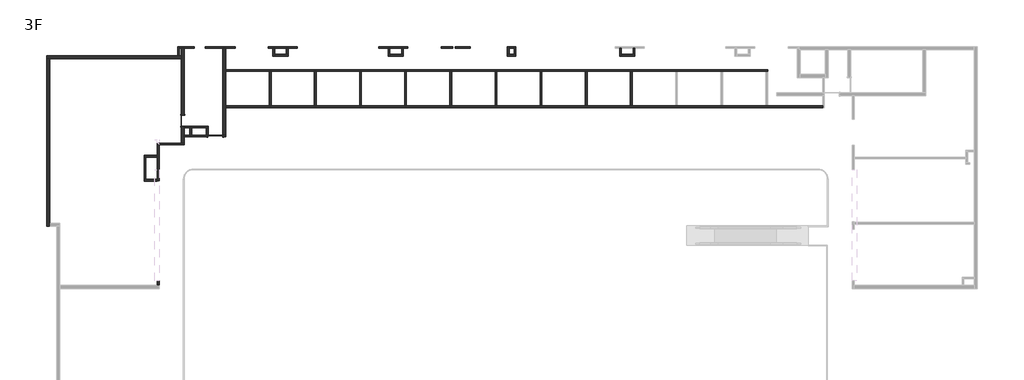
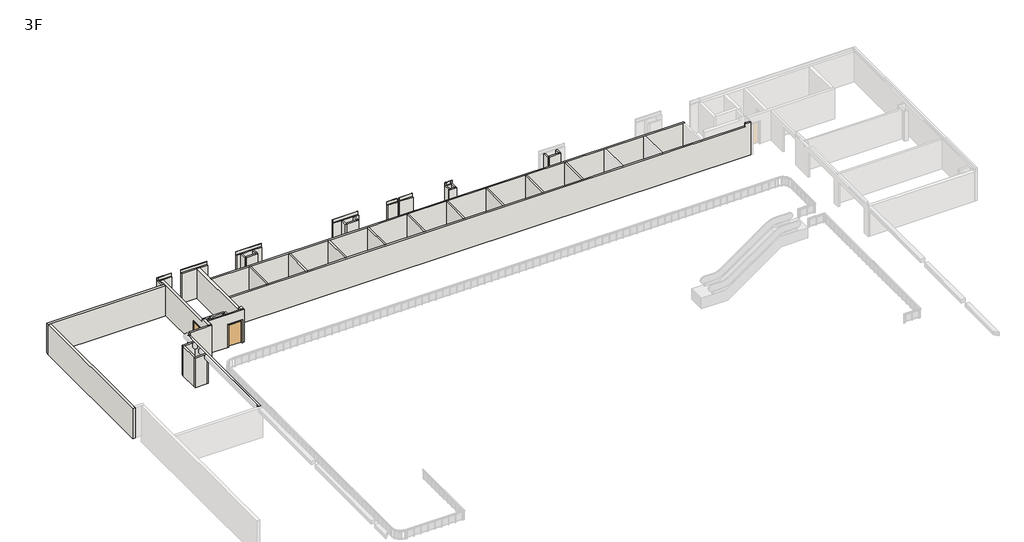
# One storey, part 3 of 4: 44 walls, 2 doors.
"""IFC4 building model written with IfcOpenShell, lengths in millimetres."""

from ifc_helpers import new_model, si_unit, frame, origin, place, context, project, spatial, polyline, outline, extrude, faceted_brep, transform, mapped, element, save
from components import m_single_flush_d_1200x2150_ee7a6381, m_single_flush_d_900x2150_afd04a23

model = new_model("IFC4")

# Units and contexts
model_context = context("Model", 3, world=origin())
ifc_project = project(units=[si_unit("LENGTHUNIT", "METRE", prefix="MILLI")], contexts=[model_context])

# Site, building, storey
site = spatial("IfcSite", under=ifc_project)
building = spatial("IfcBuilding", under=site)
storey = spatial("IfcBuildingStorey", under=building, Name="3F", Elevation=11850.0)

# Doors
placement = place(None, origin())
m_single_flush_d_1200x2150_shape = m_single_flush_d_1200x2150_ee7a6381(model_context)
element("IfcDoor", 1, ObjectType="M_Single-Flush : D-1200x2150", at=placement, inside=storey, context=model_context, shape_type="MappedRepresentation", body=[
    mapped(m_single_flush_d_1200x2150_shape, transform((-18037.5865899, 14093.3851347, 11850.0), x_axis=(1.0, 0.0, 0.0), y_axis=(0.0, 1.0, 0.0), z_axis=(0.0, 0.0, 1.0))),
])
m_single_flush_d_900x2150_shape = m_single_flush_d_900x2150_afd04a23(model_context)
element("IfcDoor", 2, ObjectType="M_Single-Flush : D-900x2150", at=placement, inside=storey, context=model_context, shape_type="MappedRepresentation", body=[
    mapped(m_single_flush_d_900x2150_shape, transform((-20654.0865899, 15317.3851347, 11850.0), x_axis=(0.0, -1.0, 0.0), y_axis=(1.0, 0.0, 0.0), z_axis=(0.0, 0.0, 1.0))),
])

# Walls
element("IfcWall", 3, ObjectType="wall-115", at=placement, inside=storey, context=model_context, shape_type="SweptSolid", body=[
    extrude(outline(polyline([(15197.4134101, 16502.3851347), (15197.4134101, 19272.3851347), (15339.4134101, 19272.3851347), (15339.4134101, 16502.3851347), (15197.4134101, 16502.3851347)])), frame((0.0, 0.0, 11850.0), z_axis=(0.0, 0.0, 1.0), x_axis=(1.0, 0.0, 0.0)), (0.0, 0.0, 1.0), 2875.0),
])
element("IfcWall", 4, ObjectType="wall-115", at=placement, inside=storey, context=model_context, shape_type="SweptSolid", body=[
    extrude(outline(polyline([(11582.4134101, 16502.3851347), (11582.4134101, 19272.3851347), (11724.4134101, 19272.3851347), (11724.4134101, 16502.3851347), (11582.4134101, 16502.3851347)])), frame((0.0, 0.0, 11850.0), z_axis=(0.0, 0.0, 1.0), x_axis=(1.0, 0.0, 0.0)), (0.0, 0.0, 1.0), 2875.0),
])
element("IfcWall", 5, ObjectType="wall-115", at=placement, inside=storey, context=model_context, shape_type="SweptSolid", body=[
    extrude(outline(polyline([(7967.4134101, 16502.3851347), (7967.4134101, 19272.3851347), (8109.4134101, 19272.3851347), (8109.4134101, 16502.3851347), (7967.4134101, 16502.3851347)])), frame((0.0, 0.0, 11850.0), z_axis=(0.0, 0.0, 1.0), x_axis=(1.0, 0.0, 0.0)), (0.0, 0.0, 1.0), 2875.0),
])
element("IfcWall", 6, ObjectType="wall-115", at=placement, inside=storey, context=model_context, shape_type="SweptSolid", body=[
    extrude(outline(polyline([(4352.4134101, 16502.3851347), (4352.4134101, 19272.3851347), (4494.4134101, 19272.3851347), (4494.4134101, 16502.3851347), (4352.4134101, 16502.3851347)])), frame((0.0, 0.0, 11850.0), z_axis=(0.0, 0.0, 1.0), x_axis=(1.0, 0.0, 0.0)), (0.0, 0.0, 1.0), 2875.0),
])
element("IfcWall", 7, ObjectType="wall-115", at=placement, inside=storey, context=model_context, shape_type="Brep", body=[
    faceted_brep([(5334.9134101, 20487.3851347, 11850.0), (6014.9134101, 20487.3851347, 11850.0), (6014.9134101, 20487.3851347, 14725.0), (5334.9134101, 20487.3851347, 14725.0), (6014.9134101, 20629.3851347, 11850.0), (5872.9134101, 20629.3851347, 11850.0), (5476.9134101, 20629.3851347, 11850.0), (5334.9134101, 20629.3851347, 11850.0), (5334.9134101, 20629.3851347, 14725.0), (5476.9134101, 20629.3851347, 14725.0), (5872.9134101, 20629.3851347, 14725.0), (6014.9134101, 20629.3851347, 14725.0)], [[[0, 1, 2, 3]], [[4, 5, 6, 7, 8, 9, 10, 11]], [[1, 0, 7, 6, 5, 4]], [[7, 0, 3, 8]], [[1, 4, 11, 2]], [[3, 2, 11, 10, 9, 8]]]),
])
element("IfcWall", 8, ObjectType="wall-115", at=placement, inside=storey, context=model_context, shape_type="SweptSolid", body=[
    extrude(outline(polyline([(737.4134101, 16502.3851347), (737.4134101, 19272.3851347), (879.4134101, 19272.3851347), (879.4134101, 16502.3851347), (737.4134101, 16502.3851347)])), frame((0.0, 0.0, 11850.0), z_axis=(0.0, 0.0, 1.0), x_axis=(1.0, 0.0, 0.0)), (0.0, 0.0, 1.0), 2875.0),
])
element("IfcWall", 9, ObjectType="wall-115", at=placement, inside=storey, context=model_context, shape_type="SweptSolid", body=[
    extrude(outline(polyline([(-2877.5865899, 16502.3851347), (-2877.5865899, 19272.3851347), (-2735.5865899, 19272.3851347), (-2735.5865899, 16502.3851347), (-2877.5865899, 16502.3851347)])), frame((0.0, 0.0, 11850.0), z_axis=(0.0, 0.0, 1.0), x_axis=(1.0, 0.0, 0.0)), (0.0, 0.0, 1.0), 2875.0),
])
element("IfcWall", 10, ObjectType="wall-115", at=placement, inside=storey, context=model_context, shape_type="SweptSolid", body=[
    extrude(outline(polyline([(-6492.5865899, 16502.3851347), (-6492.5865899, 19272.3851347), (-6350.5865899, 19272.3851347), (-6350.5865899, 16502.3851347), (-6492.5865899, 16502.3851347)])), frame((0.0, 0.0, 11850.0), z_axis=(0.0, 0.0, 1.0), x_axis=(1.0, 0.0, 0.0)), (0.0, 0.0, 1.0), 2875.0),
])
element("IfcWall", 11, ObjectType="wall-115", at=placement, inside=storey, context=model_context, shape_type="SweptSolid", body=[
    extrude(outline(polyline([(-10107.5865899, 16502.3851347), (-10107.5865899, 19272.3851347), (-9965.5865899, 19272.3851347), (-9965.5865899, 16502.3851347), (-10107.5865899, 16502.3851347)])), frame((0.0, 0.0, 11850.0), z_axis=(0.0, 0.0, 1.0), x_axis=(1.0, 0.0, 0.0)), (0.0, 0.0, 1.0), 2875.0),
])
element("IfcWall", 12, ObjectType="wall-115", at=placement, inside=storey, context=model_context, shape_type="SweptSolid", body=[
    extrude(outline(polyline([(-13722.5865899, 16502.3851347), (-13722.5865899, 19272.3851347), (-13580.5865899, 19272.3851347), (-13580.5865899, 16502.3851347), (-13722.5865899, 16502.3851347)])), frame((0.0, 0.0, 11850.0), z_axis=(0.0, 0.0, 1.0), x_axis=(1.0, 0.0, 0.0)), (0.0, 0.0, 1.0), 2875.0),
])
element("IfcWall", 13, ObjectType="wall-115", at=placement, inside=storey, context=model_context, shape_type="Brep", body=[
    faceted_brep([(-22667.5865899, 10624.4013413, 11850.0), (-23605.5865898, 10624.4013413, 11850.0), (-23747.5865898, 10624.4013413, 11850.0), (-23747.5865898, 10624.4013413, 14725.0), (-23605.5865898, 10624.4013413, 14725.0), (-22667.5865899, 10624.4013413, 14725.0), (-23747.5865898, 10482.4013413, 11850.0), (-22667.5865899, 10482.4013413, 11850.0), (-22667.5865899, 10482.4013413, 14725.0), (-23747.5865898, 10482.4013413, 14725.0), (-22667.5865899, 10497.4013413, 11850.0)], [[[0, 1, 2, 3, 4, 5]], [[6, 7, 8, 9]], [[2, 1, 0, 10, 7, 6]], [[2, 6, 9, 3]], [[7, 10, 0, 5, 8]], [[5, 4, 3, 9, 8]]]),
])
element("IfcWall", 14, ObjectType="wall-115", at=placement, inside=storey, context=model_context, shape_type="SweptSolid", body=[
    extrude(outline(polyline([(-23605.5865898, 12397.3851348), (-23605.5865898, 10624.4013413), (-23747.5865898, 10624.4013413), (-23747.5865898, 12397.3851348), (-23605.5865898, 12397.3851348)])), frame((0.0, 0.0, 11850.0), z_axis=(0.0, 0.0, 1.0), x_axis=(1.0, 0.0, 0.0)), (0.0, 0.0, 1.0), 2875.0),
])
element("IfcWall", 15, ObjectType="wall-115", at=placement, inside=storey, context=model_context, shape_type="Brep", body=[
    faceted_brep([(-22667.5865899, 12539.3851348, 11850.0), (-23747.5865898, 12539.3851348, 11850.0), (-23747.5865898, 12539.3851348, 14725.0), (-22667.5865899, 12539.3851348, 14725.0), (-23747.5865898, 12397.3851348, 11850.0), (-23605.5865898, 12397.3851348, 11850.0), (-22667.5865899, 12397.3851348, 11850.0), (-22667.5865899, 12397.3851348, 14725.0), (-23605.5865898, 12397.3851348, 14725.0), (-23747.5865898, 12397.3851348, 14725.0)], [[[0, 1, 2, 3]], [[4, 5, 6, 7, 8, 9]], [[1, 0, 6, 5, 4]], [[1, 4, 9, 2]], [[6, 0, 3, 7]], [[3, 2, 9, 8, 7]]]),
])
element("IfcWall", 16, ObjectType="wall-115", at=placement, inside=storey, context=model_context, shape_type="Brep", body=[
    faceted_brep([(-22667.5865899, 13385.3851347, 11850.0), (-22525.5865899, 13385.3851347, 11850.0), (-20525.5865899, 13385.3851347, 11850.0), (-20525.5865899, 13385.3851347, 15000.0), (-22525.5865899, 13385.3851347, 15000.0), (-22525.5865899, 13385.3851347, 14725.0), (-22667.5865899, 13385.3851347, 14725.0), (-20525.5865899, 13527.3851347, 11850.0), (-20782.5865899, 13527.3851347, 11850.0), (-22667.5865899, 13527.3851347, 11850.0), (-22667.5865899, 13527.3851347, 14725.0), (-22525.5865899, 13527.3851347, 14725.0), (-22525.5865899, 13527.3851347, 15000.0), (-20782.5865899, 13527.3851347, 15000.0), (-20525.5865899, 13527.3851347, 15000.0)], [[[0, 1, 2, 3, 4, 5, 6]], [[7, 8, 9, 10, 11, 12, 13, 14]], [[2, 1, 0, 9, 8, 7]], [[3, 14, 13, 12, 4]], [[3, 2, 7, 14]], [[9, 0, 6, 10]], [[5, 11, 10, 6]], [[11, 5, 4, 12]]]),
])
element("IfcWall", 17, ObjectType="wall-115", at=placement, inside=storey, context=model_context, shape_type="Brep", body=[
    faceted_brep([(-17192.5865899, 16360.3851347, 11850.0), (30582.4134101, 16360.3851347, 11850.0), (30582.4134101, 16360.3851347, 15000.0), (30072.4134101, 16360.3851347, 15000.0), (30072.4134101, 16360.3851347, 14725.0), (-17192.5865899, 16360.3851347, 14725.0), (30582.4134101, 16502.3851347, 11850.0), (26184.4134101, 16502.3851347, 11850.0), (26042.4134101, 16502.3851347, 11850.0), (22569.4134101, 16502.3851347, 11850.0), (22427.4134101, 16502.3851347, 11850.0), (18954.4134101, 16502.3851347, 11850.0), (18812.4134101, 16502.3851347, 11850.0), (15339.4134101, 16502.3851347, 11850.0), (15197.4134101, 16502.3851347, 11850.0), (11724.4134101, 16502.3851347, 11850.0), (11582.4134101, 16502.3851347, 11850.0), (8109.4134101, 16502.3851347, 11850.0), (7967.4134101, 16502.3851347, 11850.0), (4494.4134101, 16502.3851347, 11850.0), (4352.4134101, 16502.3851347, 11850.0), (879.4134101, 16502.3851347, 11850.0), (737.4134101, 16502.3851347, 11850.0), (-2735.5865899, 16502.3851347, 11850.0), (-2877.5865899, 16502.3851347, 11850.0), (-6350.5865899, 16502.3851347, 11850.0), (-6492.5865899, 16502.3851347, 11850.0), (-9965.5865899, 16502.3851347, 11850.0), (-10107.5865899, 16502.3851347, 11850.0), (-13580.5865899, 16502.3851347, 11850.0), (-13722.5865899, 16502.3851347, 11850.0), (-17192.5865899, 16502.3851347, 11850.0), (-17192.5865899, 16502.3851347, 14725.0), (-13722.5865899, 16502.3851347, 14725.0), (-13580.5865899, 16502.3851347, 14725.0), (-10107.5865899, 16502.3851347, 14725.0), (-9965.5865899, 16502.3851347, 14725.0), (-6492.5865899, 16502.3851347, 14725.0), (-6350.5865899, 16502.3851347, 14725.0), (-2877.5865899, 16502.3851347, 14725.0), (-2735.5865899, 16502.3851347, 14725.0), (737.4134101, 16502.3851347, 14725.0), (879.4134101, 16502.3851347, 14725.0), (4352.4134101, 16502.3851347, 14725.0), (4494.4134101, 16502.3851347, 14725.0), (7967.4134101, 16502.3851347, 14725.0), (8109.4134101, 16502.3851347, 14725.0), (11582.4134101, 16502.3851347, 14725.0), (11724.4134101, 16502.3851347, 14725.0), (15197.4134101, 16502.3851347, 14725.0), (15339.4134101, 16502.3851347, 14725.0), (18812.4134101, 16502.3851347, 14725.0), (18954.4134101, 16502.3851347, 14725.0), (22427.4134101, 16502.3851347, 14725.0), (22569.4134101, 16502.3851347, 14725.0), (26042.4134101, 16502.3851347, 14725.0), (26184.4134101, 16502.3851347, 14725.0), (30072.4134101, 16502.3851347, 14725.0), (30072.4134101, 16502.3851347, 15000.0), (30582.4134101, 16502.3851347, 15000.0)], [[[0, 1, 2, 3, 4, 5]], [[6, 7, 8, 9, 10, 11, 12, 13, 14, 15, 16, 17, 18, 19, 20, 21, 22, 23, 24, 25, 26, 27, 28, 29, 30, 31, 32, 33, 34, 35, 36, 37, 38, 39, 40, 41, 42, 43, 44, 45, 46, 47, 48, 49, 50, 51, 52, 53, 54, 55, 56, 57, 58, 59]], [[1, 0, 31, 30, 29, 28, 27, 26, 25, 24, 23, 22, 21, 20, 19, 18, 17, 16, 15, 14, 13, 12, 11, 10, 9, 8, 7, 6]], [[2, 59, 58, 3]], [[2, 1, 6, 59]], [[31, 0, 5, 32]], [[4, 57, 56, 55, 54, 53, 52, 51, 50, 49, 48, 47, 46, 45, 44, 43, 42, 41, 40, 39, 38, 37, 36, 35, 34, 33, 32, 5]], [[57, 4, 3, 58]]]),
])
element("IfcWall", 18, ObjectType="wall-115", at=placement, inside=storey, context=model_context, shape_type="Brep", body=[
    faceted_brep([(-17192.5865899, 19272.3851347, 11850.0), (-13722.5865899, 19272.3851347, 11850.0), (-13580.5865899, 19272.3851347, 11850.0), (-10107.5865899, 19272.3851347, 11850.0), (-9965.5865899, 19272.3851347, 11850.0), (-6492.5865899, 19272.3851347, 11850.0), (-6350.5865899, 19272.3851347, 11850.0), (-2877.5865899, 19272.3851347, 11850.0), (-2735.5865899, 19272.3851347, 11850.0), (737.4134101, 19272.3851347, 11850.0), (879.4134101, 19272.3851347, 11850.0), (4352.4134101, 19272.3851347, 11850.0), (4494.4134101, 19272.3851347, 11850.0), (7967.4134101, 19272.3851347, 11850.0), (8109.4134101, 19272.3851347, 11850.0), (11582.4134101, 19272.3851347, 11850.0), (11724.4134101, 19272.3851347, 11850.0), (15197.4134101, 19272.3851347, 11850.0), (15339.4134101, 19272.3851347, 11850.0), (18812.4134101, 19272.3851347, 11850.0), (18954.4134101, 19272.3851347, 11850.0), (22427.4134101, 19272.3851347, 11850.0), (22569.4134101, 19272.3851347, 11850.0), (26042.4134101, 19272.3851347, 11850.0), (26184.4134101, 19272.3851347, 11850.0), (26184.4134101, 19272.3851347, 14725.0), (26042.4134101, 19272.3851347, 14725.0), (22569.4134101, 19272.3851347, 14725.0), (22427.4134101, 19272.3851347, 14725.0), (18954.4134101, 19272.3851347, 14725.0), (18812.4134101, 19272.3851347, 14725.0), (15339.4134101, 19272.3851347, 14725.0), (15197.4134101, 19272.3851347, 14725.0), (11724.4134101, 19272.3851347, 14725.0), (11582.4134101, 19272.3851347, 14725.0), (8109.4134101, 19272.3851347, 14725.0), (7967.4134101, 19272.3851347, 14725.0), (4494.4134101, 19272.3851347, 14725.0), (4352.4134101, 19272.3851347, 14725.0), (879.4134101, 19272.3851347, 14725.0), (737.4134101, 19272.3851347, 14725.0), (-2735.5865899, 19272.3851347, 14725.0), (-2877.5865899, 19272.3851347, 14725.0), (-6350.5865899, 19272.3851347, 14725.0), (-6492.5865899, 19272.3851347, 14725.0), (-9965.5865899, 19272.3851347, 14725.0), (-10107.5865899, 19272.3851347, 14725.0), (-13580.5865899, 19272.3851347, 14725.0), (-13722.5865899, 19272.3851347, 14725.0), (-17192.5865899, 19272.3851347, 14725.0), (26184.4134101, 19414.3851347, 11850.0), (-17192.5865899, 19414.3851347, 11850.0), (-17192.5865899, 19414.3851347, 14725.0), (26184.4134101, 19414.3851347, 14725.0)], [[[0, 1, 2, 3, 4, 5, 6, 7, 8, 9, 10, 11, 12, 13, 14, 15, 16, 17, 18, 19, 20, 21, 22, 23, 24, 25, 26, 27, 28, 29, 30, 31, 32, 33, 34, 35, 36, 37, 38, 39, 40, 41, 42, 43, 44, 45, 46, 47, 48, 49]], [[50, 51, 52, 53]], [[24, 23, 22, 21, 20, 19, 18, 17, 16, 15, 14, 13, 12, 11, 10, 9, 8, 7, 6, 5, 4, 3, 2, 1, 0, 51, 50]], [[24, 50, 53, 25]], [[51, 0, 49, 52]], [[49, 48, 47, 46, 45, 44, 43, 42, 41, 40, 39, 38, 37, 36, 35, 34, 33, 32, 31, 30, 29, 28, 27, 26, 25, 53, 52]]]),
])
element("IfcWall", 19, ObjectType="wall-115", at=placement, inside=storey, context=model_context, shape_type="Brep", body=[
    faceted_brep([(-20909.0865899, 21117.3851347, 11850.0), (-20782.5865899, 21117.3851347, 11850.0), (-20525.5865899, 21117.3851347, 11850.0), (-19737.5865899, 21117.3851347, 11850.0), (-19737.5865899, 21117.3851347, 14725.0), (-20525.5865899, 21117.3851347, 14725.0), (-20782.5865899, 21117.3851347, 14725.0), (-20909.0865899, 21117.3851347, 14725.0), (-19737.5865899, 21259.3851347, 11850.0), (-20909.0865899, 21259.3851347, 11850.0), (-20909.0865899, 21259.3851347, 15000.0), (-19737.5865899, 21259.3851347, 15000.0), (-19737.5865899, 21235.3851347, 15000.0), (-19737.5865899, 21235.3851347, 14725.0), (-20909.0865899, 21235.3851347, 15000.0), (-20909.0865899, 21235.3851347, 14725.0)], [[[0, 1, 2, 3, 4, 5, 6, 7]], [[8, 9, 10, 11]], [[3, 2, 1, 0, 9, 8]], [[8, 11, 12, 13, 4, 3]], [[11, 10, 14, 12]], [[10, 9, 0, 7, 15, 14]], [[13, 15, 7, 6, 5, 4]], [[15, 13, 12, 14]]]),
])
element("IfcWall", 20, ObjectType="wall-115", at=placement, inside=storey, context=model_context, shape_type="Brep", body=[
    faceted_brep([(-4937.5865899, 21117.3851347, 11850.0), (-4207.5865899, 21117.3851347, 11850.0), (-4065.5865899, 21117.3851347, 11850.0), (-3119.5865899, 21117.3851347, 11850.0), (-2977.5865899, 21117.3851347, 11850.0), (-2617.5865899, 21117.3851347, 11850.0), (-2617.5865899, 21117.3851347, 14725.0), (-2977.5865899, 21117.3851347, 14725.0), (-3119.5865899, 21117.3851347, 14725.0), (-4065.5865899, 21117.3851347, 14725.0), (-4207.5865899, 21117.3851347, 14725.0), (-4937.5865899, 21117.3851347, 14725.0), (-2617.5865899, 21259.3851347, 11850.0), (-4937.5865899, 21259.3851347, 11850.0), (-4937.5865899, 21259.3851347, 15000.0), (-2617.5865899, 21259.3851347, 15000.0), (-2617.5865899, 21235.3851347, 15000.0), (-2617.5865899, 21235.3851347, 14725.0), (-4937.5865899, 21235.3851347, 15000.0), (-4937.5865899, 21235.3851347, 14725.0)], [[[0, 1, 2, 3, 4, 5, 6, 7, 8, 9, 10, 11]], [[12, 13, 14, 15]], [[5, 4, 3, 2, 1, 0, 13, 12]], [[12, 15, 16, 17, 6, 5]], [[15, 14, 18, 16]], [[14, 13, 0, 11, 19, 18]], [[17, 19, 11, 10, 9, 8, 7, 6]], [[19, 17, 16, 18]]]),
])
element("IfcWall", 21, ObjectType="wall-115", at=placement, inside=storey, context=model_context, shape_type="Brep", body=[
    faceted_brep([(-13797.5865899, 21117.3851347, 11850.0), (-13437.5865899, 21117.3851347, 11850.0), (-13295.5865899, 21117.3851347, 11850.0), (-12349.5865899, 21117.3851347, 11850.0), (-12207.5865899, 21117.3851347, 11850.0), (-11477.5865899, 21117.3851347, 11850.0), (-11477.5865899, 21117.3851347, 14725.0), (-12207.5865899, 21117.3851347, 14725.0), (-12349.5865899, 21117.3851347, 14725.0), (-13295.5865899, 21117.3851347, 14725.0), (-13437.5865899, 21117.3851347, 14725.0), (-13797.5865899, 21117.3851347, 14725.0), (-11477.5865899, 21259.3851347, 11850.0), (-13797.5865899, 21259.3851347, 11850.0), (-13797.5865899, 21259.3851347, 15000.0), (-11477.5865899, 21259.3851347, 15000.0), (-11477.5865899, 21235.3851347, 15000.0), (-11477.5865899, 21235.3851347, 14725.0), (-13797.5865899, 21235.3851347, 15000.0), (-13797.5865899, 21235.3851347, 14725.0)], [[[0, 1, 2, 3, 4, 5, 6, 7, 8, 9, 10, 11]], [[12, 13, 14, 15]], [[5, 4, 3, 2, 1, 0, 13, 12]], [[12, 15, 16, 17, 6, 5]], [[15, 14, 18, 16]], [[14, 13, 0, 11, 19, 18]], [[17, 19, 11, 10, 9, 8, 7, 6]], [[19, 17, 16, 18]]]),
])
element("IfcWall", 22, ObjectType="wall-115", at=placement, inside=storey, context=model_context, shape_type="SweptSolid", body=[
    extrude(outline(polyline([(21259.3851347, 15000.0), (21259.3851347, 11850.0), (21117.3851347, 11850.0), (21117.3851347, 14725.0), (21235.3851347, 14725.0), (21235.3851347, 15000.0), (21259.3851347, 15000.0)])), frame((47.4134101, 0.0, 0.0), z_axis=(1.0, 0.0, 0.0), x_axis=(0.0, 1.0, 0.0)), (0.0, 0.0, 1.0), 917.5),
])
element("IfcWall", 23, ObjectType="wall-115", at=placement, inside=storey, context=model_context, shape_type="SweptSolid", body=[
    extrude(outline(polyline([(21259.3851347, 15000.0), (21259.3851347, 11850.0), (21117.3851347, 11850.0), (21117.3851347, 14725.0), (21235.3851347, 14725.0), (21235.3851347, 15000.0), (21259.3851347, 15000.0)])), frame((1154.9134101, 0.0, 0.0), z_axis=(1.0, 0.0, 0.0), x_axis=(0.0, 1.0, 0.0)), (0.0, 0.0, 1.0), 1212.5),
])
element("IfcWall", 24, ObjectType="wall-115", at=placement, inside=storey, context=model_context, shape_type="Brep", body=[
    faceted_brep([(-18837.5865899, 21117.3851347, 11850.0), (-17449.5865899, 21117.3851347, 11850.0), (-17192.5865899, 21117.3851347, 11850.0), (-16462.5865899, 21117.3851347, 11850.0), (-16462.5865899, 21117.3851347, 14725.0), (-17192.5865899, 21117.3851347, 14725.0), (-17449.5865899, 21117.3851347, 14725.0), (-18837.5865899, 21117.3851347, 14725.0), (-16462.5865899, 21259.3851347, 11850.0), (-18837.5865899, 21259.3851347, 11850.0), (-18837.5865899, 21259.3851347, 15000.0), (-16462.5865899, 21259.3851347, 15000.0), (-16462.5865899, 21235.3851347, 15000.0), (-16462.5865899, 21235.3851347, 14725.0), (-18837.5865899, 21235.3851347, 15000.0), (-18837.5865899, 21235.3851347, 14725.0)], [[[0, 1, 2, 3, 4, 5, 6, 7]], [[8, 9, 10, 11]], [[3, 2, 1, 0, 9, 8]], [[8, 11, 12, 13, 4, 3]], [[11, 10, 14, 12]], [[10, 9, 0, 7, 15, 14]], [[13, 15, 7, 6, 5, 4]], [[15, 13, 12, 14]]]),
])
element("IfcWall", 25, ObjectType="wall-115", at=placement, inside=storey, context=model_context, shape_type="Brep", body=[
    faceted_brep([(-21051.0865899, 21259.3851347, 11850.0), (-21051.0865899, 20534.3851347, 11850.0), (-21051.0865899, 20534.3851347, 14725.0), (-21051.0865899, 21235.3851347, 14725.0), (-21051.0865899, 21235.3851347, 15000.0), (-21051.0865899, 21259.3851347, 15000.0), (-20909.0865899, 20534.3851347, 11850.0), (-20909.0865899, 21117.3851347, 11850.0), (-20909.0865899, 21259.3851347, 11850.0), (-20909.0865899, 21259.3851347, 15000.0), (-20909.0865899, 21235.3851347, 15000.0), (-20909.0865899, 21235.3851347, 14725.0), (-20909.0865899, 21117.3851347, 14725.0), (-20909.0865899, 20534.3851347, 14725.0)], [[[0, 1, 2, 3, 4, 5]], [[6, 7, 8, 9, 10, 11, 12, 13]], [[1, 0, 8, 7, 6]], [[9, 5, 4, 10]], [[0, 5, 9, 8]], [[1, 6, 13, 2]], [[11, 3, 2, 13, 12]], [[3, 11, 10, 4]]]),
])
element("IfcWall", 26, ObjectType="wall-115", at=placement, inside=storey, context=model_context, shape_type="Brep", body=[
    faceted_brep([(5334.9134101, 21259.3851347, 11850.0), (5334.9134101, 20629.3851347, 11850.0), (5334.9134101, 20629.3851347, 14725.0), (5334.9134101, 21235.3851347, 14725.0), (5334.9134101, 21235.3851347, 15000.0), (5334.9134101, 21259.3851347, 15000.0), (5476.9134101, 20629.3851347, 11850.0), (5476.9134101, 21117.3851347, 11850.0), (5476.9134101, 21259.3851347, 11850.0), (5476.9134101, 21259.3851347, 15000.0), (5476.9134101, 21235.3851347, 15000.0), (5476.9134101, 21235.3851347, 14725.0), (5476.9134101, 21117.3851347, 14725.0), (5476.9134101, 20629.3851347, 14725.0)], [[[0, 1, 2, 3, 4, 5]], [[6, 7, 8, 9, 10, 11, 12, 13]], [[1, 0, 8, 7, 6]], [[9, 5, 4, 10]], [[0, 5, 9, 8]], [[1, 6, 13, 2]], [[11, 3, 2, 13, 12]], [[3, 11, 10, 4]]]),
])
element("IfcWall", 27, ObjectType="wall-115", at=placement, inside=storey, context=model_context, shape_type="Brep", body=[
    faceted_brep([(6014.9134101, 20629.3851347, 11850.0), (6014.9134101, 21259.3851347, 11850.0), (6014.9134101, 21259.3851347, 15000.0), (6014.9134101, 21235.3851347, 15000.0), (6014.9134101, 21235.3851347, 14725.0), (6014.9134101, 20629.3851347, 14725.0), (5872.9134101, 21259.3851347, 11850.0), (5872.9134101, 21117.3851347, 11850.0), (5872.9134101, 20629.3851347, 11850.0), (5872.9134101, 20629.3851347, 14725.0), (5872.9134101, 21117.3851347, 14725.0), (5872.9134101, 21235.3851347, 14725.0), (5872.9134101, 21235.3851347, 15000.0), (5872.9134101, 21259.3851347, 15000.0)], [[[0, 1, 2, 3, 4, 5]], [[6, 7, 8, 9, 10, 11, 12, 13]], [[1, 0, 8, 7, 6]], [[2, 13, 12, 3]], [[2, 1, 6, 13]], [[8, 0, 5, 9]], [[4, 11, 10, 9, 5]], [[11, 4, 3, 12]]]),
])
element("IfcWall", 28, ObjectType="wall-115", at=placement, inside=storey, context=model_context, shape_type="SweptSolid", body=[
    extrude(outline(polyline([(21259.3851347, 15000.0), (21259.3851347, 11850.0), (21117.3851347, 11850.0), (21117.3851347, 14725.0), (21235.3851347, 14725.0), (21235.3851347, 15000.0), (21259.3851347, 15000.0)])), frame((5476.9134101, 0.0, 0.0), z_axis=(1.0, 0.0, 0.0), x_axis=(0.0, 1.0, 0.0)), (0.0, 0.0, 1.0), 396.0),
])
element("IfcWall", 29, ObjectType="wall-115", at=placement, inside=storey, context=model_context, shape_type="Brep", body=[
    faceted_brep([(-4207.5865899, 21117.3851347, 11850.0), (-4207.5865899, 20487.3851347, 11850.0), (-4207.5865899, 20487.3851347, 14725.0), (-4207.5865899, 21117.3851347, 14725.0), (-4065.5865899, 20487.3851347, 11850.0), (-4065.5865899, 20629.3851347, 11850.0), (-4065.5865899, 21117.3851347, 11850.0), (-4065.5865899, 21117.3851347, 14725.0), (-4065.5865899, 20629.3851347, 14725.0), (-4065.5865899, 20487.3851347, 14725.0)], [[[0, 1, 2, 3]], [[4, 5, 6, 7, 8, 9]], [[1, 0, 6, 5, 4]], [[1, 4, 9, 2]], [[6, 0, 3, 7]], [[3, 2, 9, 8, 7]]]),
])
element("IfcWall", 30, ObjectType="wall-115", at=placement, inside=storey, context=model_context, shape_type="Brep", body=[
    faceted_brep([(-4065.5865899, 20487.3851347, 11850.0), (-2977.5865899, 20487.3851347, 11850.0), (-2977.5865899, 20487.3851347, 14725.0), (-4065.5865899, 20487.3851347, 14725.0), (-2977.5865899, 20629.3851347, 11850.0), (-3119.5865899, 20629.3851347, 11850.0), (-4065.5865899, 20629.3851347, 11850.0), (-4065.5865899, 20629.3851347, 14725.0), (-3119.5865899, 20629.3851347, 14725.0), (-2977.5865899, 20629.3851347, 14725.0)], [[[0, 1, 2, 3]], [[4, 5, 6, 7, 8, 9]], [[1, 0, 6, 5, 4]], [[6, 0, 3, 7]], [[1, 4, 9, 2]], [[3, 2, 9, 8, 7]]]),
])
element("IfcWall", 31, ObjectType="wall-115", at=placement, inside=storey, context=model_context, shape_type="SweptSolid", body=[
    extrude(outline(polyline([(-2977.5865899, 21117.3851347), (-2977.5865899, 20629.3851347), (-3119.5865899, 20629.3851347), (-3119.5865899, 21117.3851347), (-2977.5865899, 21117.3851347)])), frame((0.0, 0.0, 11850.0), z_axis=(0.0, 0.0, 1.0), x_axis=(1.0, 0.0, 0.0)), (0.0, 0.0, 1.0), 2875.0),
])
element("IfcWall", 32, ObjectType="wall-115", at=placement, inside=storey, context=model_context, shape_type="Brep", body=[
    faceted_brep([(-13437.5865899, 21117.3851347, 11850.0), (-13437.5865899, 20487.3851347, 11850.0), (-13437.5865899, 20487.3851347, 14725.0), (-13437.5865899, 21117.3851347, 14725.0), (-13295.5865899, 20487.3851347, 11850.0), (-13295.5865899, 20629.3851347, 11850.0), (-13295.5865899, 21117.3851347, 11850.0), (-13295.5865899, 21117.3851347, 14725.0), (-13295.5865899, 20629.3851347, 14725.0), (-13295.5865899, 20487.3851347, 14725.0)], [[[0, 1, 2, 3]], [[4, 5, 6, 7, 8, 9]], [[1, 0, 6, 5, 4]], [[1, 4, 9, 2]], [[6, 0, 3, 7]], [[3, 2, 9, 8, 7]]]),
])
element("IfcWall", 33, ObjectType="wall-115", at=placement, inside=storey, context=model_context, shape_type="Brep", body=[
    faceted_brep([(-13295.5865899, 20487.3851347, 11850.0), (-12207.5865899, 20487.3851347, 11850.0), (-12207.5865899, 20487.3851347, 14725.0), (-13295.5865899, 20487.3851347, 14725.0), (-12207.5865899, 20629.3851347, 11850.0), (-12349.5865899, 20629.3851347, 11850.0), (-13295.5865899, 20629.3851347, 11850.0), (-13295.5865899, 20629.3851347, 14725.0), (-12349.5865899, 20629.3851347, 14725.0), (-12207.5865899, 20629.3851347, 14725.0)], [[[0, 1, 2, 3]], [[4, 5, 6, 7, 8, 9]], [[1, 0, 6, 5, 4]], [[6, 0, 3, 7]], [[1, 4, 9, 2]], [[3, 2, 9, 8, 7]]]),
])
element("IfcWall", 34, ObjectType="wall-115", at=placement, inside=storey, context=model_context, shape_type="SweptSolid", body=[
    extrude(outline(polyline([(-12207.5865899, 21117.3851347), (-12207.5865899, 20629.3851347), (-12349.5865899, 20629.3851347), (-12349.5865899, 21117.3851347), (-12207.5865899, 21117.3851347)])), frame((0.0, 0.0, 11850.0), z_axis=(0.0, 0.0, 1.0), x_axis=(1.0, 0.0, 0.0)), (0.0, 0.0, 1.0), 2875.0),
])
element("IfcWall", 35, ObjectType="wall-115", at=placement, inside=storey, context=model_context, shape_type="Brep", body=[
    faceted_brep([(14327.4134101, 21117.3851347, 11850.0), (14327.4134101, 20487.3851347, 11850.0), (14327.4134101, 20487.3851347, 14725.0), (14327.4134101, 21117.3851347, 14725.0), (14469.4134101, 20487.3851347, 11850.0), (14469.4134101, 20629.3851347, 11850.0), (14469.4134101, 21117.3851347, 11850.0), (14469.4134101, 21117.3851347, 14725.0), (14469.4134101, 20629.3851347, 14725.0), (14469.4134101, 20487.3851347, 14725.0)], [[[0, 1, 2, 3]], [[4, 5, 6, 7, 8, 9]], [[1, 0, 6, 5, 4]], [[1, 4, 9, 2]], [[6, 0, 3, 7]], [[3, 2, 9, 8, 7]]]),
])
element("IfcWall", 36, ObjectType="wall-115", at=placement, inside=storey, context=model_context, shape_type="Brep", body=[
    faceted_brep([(14469.4134101, 20487.3851347, 11850.0), (15557.4134101, 20487.3851347, 11850.0), (15557.4134101, 20487.3851347, 14725.0), (14469.4134101, 20487.3851347, 14725.0), (15557.4134101, 20629.3851347, 11850.0), (15415.4134101, 20629.3851347, 11850.0), (14469.4134101, 20629.3851347, 11850.0), (14469.4134101, 20629.3851347, 14725.0), (15415.4134101, 20629.3851347, 14725.0), (15557.4134101, 20629.3851347, 14725.0)], [[[0, 1, 2, 3]], [[4, 5, 6, 7, 8, 9]], [[1, 0, 6, 5, 4]], [[1, 4, 9, 2]], [[6, 0, 3, 7]], [[3, 2, 9, 8, 7]]]),
])
element("IfcWall", 37, ObjectType="wall-115", at=placement, inside=storey, context=model_context, shape_type="SweptSolid", body=[
    extrude(outline(polyline([(15557.4134101, 21117.3851347), (15557.4134101, 20629.3851347), (15415.4134101, 20629.3851347), (15415.4134101, 21117.3851347), (15557.4134101, 21117.3851347)])), frame((0.0, 0.0, 11850.0), z_axis=(0.0, 0.0, 1.0), x_axis=(1.0, 0.0, 0.0)), (0.0, 0.0, 1.0), 2875.0),
])
element("IfcWall", 38, ObjectType="wall-115", at=placement, inside=storey, context=model_context, shape_type="Brep", body=[
    faceted_brep([(-20525.5865899, 14740.3851347, 11850.0), (-20079.5865899, 14740.3851347, 11850.0), (-19937.5865899, 14740.3851347, 11850.0), (-18764.5865899, 14740.3851347, 11850.0), (-18622.5865899, 14740.3851347, 11850.0), (-18622.5865899, 14740.3851347, 14725.0), (-18764.5865899, 14740.3851347, 14725.0), (-19937.5865899, 14740.3851347, 14725.0), (-20079.5865899, 14740.3851347, 14725.0), (-20525.5865899, 14740.3851347, 14725.0), (-18622.5865899, 14882.3851347, 11850.0), (-20525.5865899, 14882.3851347, 11850.0), (-20525.5865899, 14882.3851347, 14725.0), (-18622.5865899, 14882.3851347, 14725.0), (-20525.5865899, 14867.3851347, 11850.0)], [[[0, 1, 2, 3, 4, 5, 6, 7, 8, 9]], [[10, 11, 12, 13]], [[4, 3, 2, 1, 0, 14, 11, 10]], [[4, 10, 13, 5]], [[11, 14, 0, 9, 12]], [[9, 8, 7, 6, 5, 13, 12]]]),
])
element("IfcWall", 39, ObjectType="wall-115", at=placement, inside=storey, context=model_context, shape_type="Brep", body=[
    faceted_brep([(-20525.5865899, 14164.3851347, 15000.0), (-20079.5865899, 14164.3851347, 15000.0), (-19937.5865899, 14164.3851347, 15000.0), (-18764.5865899, 14164.3851347, 15000.0), (-18622.5865899, 14164.3851347, 15000.0), (-17449.5865899, 14164.3851347, 15000.0), (-17192.5865899, 14164.3851347, 15000.0), (-17192.5865899, 14164.3851347, 11850.0), (-17437.5865899, 14164.3851347, 11850.0), (-17437.5865899, 14164.3851347, 14000.0), (-18637.5865899, 14164.3851347, 14000.0), (-18637.5865899, 14164.3851347, 11850.0), (-18764.5865899, 14164.3851347, 11850.0), (-19937.5865899, 14164.3851347, 11850.0), (-20079.5865899, 14164.3851347, 11850.0), (-20525.5865899, 14164.3851347, 11850.0), (-17192.5865899, 14022.3851347, 15000.0), (-20525.5865899, 14022.3851347, 15000.0), (-20525.5865899, 14022.3851347, 11850.0), (-18637.5865899, 14022.3851347, 11850.0), (-18637.5865899, 14022.3851347, 14000.0), (-17437.5865899, 14022.3851347, 14000.0), (-17437.5865899, 14022.3851347, 11850.0), (-17192.5865899, 14022.3851347, 11850.0)], [[[0, 1, 2, 3, 4, 5, 6, 7, 8, 9, 10, 11, 12, 13, 14, 15]], [[16, 17, 18, 19, 20, 21, 22, 23]], [[7, 23, 22, 8]], [[18, 15, 14, 13, 12, 11, 19]], [[6, 5, 4, 3, 2, 1, 0, 17, 16]], [[7, 6, 16, 23]], [[0, 15, 18, 17]], [[21, 9, 8, 22]], [[9, 21, 20, 10]], [[10, 20, 19, 11]]]),
])
element("IfcWall", 40, ObjectType="wall-115", at=placement, inside=storey, context=model_context, shape_type="Brep", body=[
    faceted_brep([(-18764.5865899, 14740.3851347, 11850.0), (-18764.5865899, 14164.3851347, 11850.0), (-18764.5865899, 14164.3851347, 15000.0), (-18764.5865899, 14475.3851347, 15000.0), (-18764.5865899, 14475.3851347, 14725.0), (-18764.5865899, 14740.3851347, 14725.0), (-18622.5865899, 14164.3851347, 11850.0), (-18622.5865899, 14740.3851347, 11850.0), (-18622.5865899, 14740.3851347, 14725.0), (-18622.5865899, 14475.3851347, 14725.0), (-18622.5865899, 14475.3851347, 15000.0), (-18622.5865899, 14164.3851347, 15000.0), (-18637.5865899, 14164.3851347, 11850.0)], [[[0, 1, 2, 3, 4, 5]], [[6, 7, 8, 9, 10, 11]], [[1, 0, 7, 6, 12]], [[2, 11, 10, 3]], [[7, 0, 5, 8]], [[2, 1, 12, 6, 11]], [[4, 9, 8, 5]], [[9, 4, 3, 10]]]),
])
element("IfcWall", 41, ObjectType="wall-115", at=placement, inside=storey, context=model_context, shape_type="SweptSolid", body=[
    extrude(outline(polyline([(14740.3851347, 11850.0), (14164.3851347, 11850.0), (14164.3851347, 15000.0), (14475.3851347, 15000.0), (14475.3851347, 14725.0), (14740.3851347, 14725.0), (14740.3851347, 11850.0)])), frame((-20079.5865899, 0.0, 0.0), z_axis=(1.0, 0.0, 0.0), x_axis=(0.0, 1.0, 0.0)), (0.0, 0.0, 1.0), 142.0),
])
element("IfcWall", 42, ObjectType="wall-115", at=placement, inside=storey, context=model_context, shape_type="Brep", body=[
    faceted_brep([(-22525.5865899, 2497.4013413, 14250.0), (-22525.5865899, 10497.4013413, 14250.0), (-22525.5865899, 10497.4013413, 11850.0), (-22525.5865899, 13385.3851347, 11850.0), (-22525.5865899, 13385.3851347, 14725.0), (-22525.5865899, 2142.3851348, 14725.0), (-22525.5865899, 2142.3851348, 11850.0), (-22525.5865899, 2497.4013413, 11850.0), (-22667.5865899, 10497.4013413, 14250.0), (-22667.5865899, 2497.4013413, 14250.0), (-22667.5865899, 2497.4013413, 11850.0), (-22667.5865899, 2142.3851348, 11850.0), (-22667.5865899, 2142.3851348, 14725.0), (-22667.5865899, 10482.4013413, 14725.0), (-22667.5865899, 10624.4013413, 14725.0), (-22667.5865899, 12397.3851348, 14725.0), (-22667.5865899, 12539.3851348, 14725.0), (-22667.5865899, 13385.3851347, 14725.0), (-22667.5865899, 13385.3851347, 11850.0), (-22667.5865899, 12539.3851348, 11850.0), (-22667.5865899, 12397.3851348, 11850.0), (-22667.5865899, 10624.4013413, 11850.0), (-22667.5865899, 10497.4013413, 11850.0)], [[[0, 1, 2, 3, 4, 5, 6, 7]], [[8, 9, 10, 11, 12, 13, 14, 15, 16, 17, 18, 19, 20, 21, 22]], [[6, 11, 10, 7]], [[18, 3, 2, 22, 21, 20, 19]], [[11, 6, 5, 12]], [[3, 18, 17, 4]], [[1, 0, 9, 8]], [[2, 1, 8, 22]], [[0, 7, 10, 9]], [[5, 4, 17, 16, 15, 14, 13, 12]]]),
])
element("IfcWall", 43, ObjectType="wall-230", at=placement, inside=storey, context=model_context, shape_type="Brep", body=[
    faceted_brep([(-17192.5865899, 14164.3851347, 11850.0), (-17192.5865899, 16360.3851347, 11850.0), (-17192.5865899, 16502.3851347, 11850.0), (-17192.5865899, 19272.3851347, 11850.0), (-17192.5865899, 19414.3851347, 11850.0), (-17192.5865899, 21117.3851347, 11850.0), (-17192.5865899, 21117.3851347, 14725.0), (-17192.5865899, 19414.3851347, 14725.0), (-17192.5865899, 19272.3851347, 14725.0), (-17192.5865899, 16502.3851347, 14725.0), (-17192.5865899, 16360.3851347, 14725.0), (-17192.5865899, 14475.3851347, 14725.0), (-17192.5865899, 14475.3851347, 15000.0), (-17192.5865899, 14164.3851347, 15000.0), (-17449.5865899, 21117.3851347, 11850.0), (-17449.5865899, 14164.3851347, 11850.0), (-17449.5865899, 14164.3851347, 15000.0), (-17449.5865899, 14475.3851347, 15000.0), (-17449.5865899, 14475.3851347, 14725.0), (-17449.5865899, 21117.3851347, 14725.0), (-17437.5865899, 14164.3851347, 11850.0)], [[[0, 1, 2, 3, 4, 5, 6, 7, 8, 9, 10, 11, 12, 13]], [[14, 15, 16, 17, 18, 19]], [[5, 4, 3, 2, 1, 0, 20, 15, 14]], [[16, 13, 12, 17]], [[5, 14, 19, 6]], [[0, 13, 16, 15, 20]], [[18, 11, 10, 9, 8, 7, 6, 19]], [[11, 18, 17, 12]]]),
])
element("IfcWall", 44, ObjectType="wall-230", at=placement, inside=storey, context=model_context, shape_type="Brep", body=[
    faceted_brep([(-20782.5865899, 20534.3851347, 11850.0), (-20909.0865899, 20534.3851347, 11850.0), (-21051.0865899, 20534.3851347, 11850.0), (-31549.5865899, 20534.3851347, 11850.0), (-31549.5865899, 20534.3851347, 14725.0), (-21051.0865899, 20534.3851347, 14725.0), (-20909.0865899, 20534.3851347, 14725.0), (-20782.5865899, 20534.3851347, 14725.0), (-31549.5865899, 20277.3851347, 11850.0), (-31292.5865899, 20277.3851347, 11850.0), (-20782.5865899, 20277.3851347, 11850.0), (-20782.5865899, 20277.3851347, 14725.0), (-31292.5865899, 20277.3851347, 14725.0), (-31549.5865899, 20277.3851347, 14725.0)], [[[0, 1, 2, 3, 4, 5, 6, 7]], [[8, 9, 10, 11, 12, 13]], [[3, 2, 1, 0, 10, 9, 8]], [[3, 8, 13, 4]], [[10, 0, 7, 11]], [[5, 4, 13, 12, 11, 7, 6]]]),
])
element("IfcWall", 45, ObjectType="wall-230", at=placement, inside=storey, context=model_context, shape_type="Brep", body=[
    faceted_brep([(-31549.5865899, 20277.3851347, 11850.0), (-31549.5865899, 6862.3851348, 11850.0), (-31549.5865899, 6862.3851348, 14725.0), (-31549.5865899, 20277.3851347, 14725.0), (-31292.5865899, 6862.3851348, 11850.0), (-31292.5865899, 7119.3851348, 11850.0), (-31292.5865899, 20277.3851347, 11850.0), (-31292.5865899, 20277.3851347, 14725.0), (-31292.5865899, 7119.3851348, 14725.0), (-31292.5865899, 6862.3851348, 14725.0)], [[[0, 1, 2, 3]], [[4, 5, 6, 7, 8, 9]], [[1, 0, 6, 5, 4]], [[1, 4, 9, 2]], [[6, 0, 3, 7]], [[3, 2, 9, 8, 7]]]),
])
element("IfcWall", 46, ObjectType="wall-230", at=placement, inside=storey, context=model_context, shape_type="Brep", body=[
    faceted_brep([(-20525.5865899, 13527.3851347, 15000.0), (-20525.5865899, 13527.3851347, 11850.0), (-20525.5865899, 14022.3851347, 11850.0), (-20525.5865899, 14164.3851347, 11850.0), (-20525.5865899, 14740.3851347, 11850.0), (-20525.5865899, 14867.3851347, 11850.0), (-20525.5865899, 14867.3851347, 14000.0), (-20525.5865899, 15767.3851347, 14000.0), (-20525.5865899, 15767.3851347, 11850.0), (-20525.5865899, 21117.3851347, 11850.0), (-20525.5865899, 21117.3851347, 14725.0), (-20525.5865899, 14882.3851347, 14725.0), (-20525.5865899, 14740.3851347, 14725.0), (-20525.5865899, 14475.3851347, 14725.0), (-20525.5865899, 14475.3851347, 15000.0), (-20525.5865899, 14164.3851347, 15000.0), (-20525.5865899, 14022.3851347, 15000.0), (-20782.5865899, 13527.3851347, 11850.0), (-20782.5865899, 13527.3851347, 15000.0), (-20782.5865899, 14475.3851347, 15000.0), (-20782.5865899, 14475.3851347, 14725.0), (-20782.5865899, 20277.3851347, 14725.0), (-20782.5865899, 20534.3851347, 14725.0), (-20782.5865899, 21117.3851347, 14725.0), (-20782.5865899, 21117.3851347, 11850.0), (-20782.5865899, 20534.3851347, 11850.0), (-20782.5865899, 20277.3851347, 11850.0), (-20782.5865899, 15767.3851347, 11850.0), (-20782.5865899, 15767.3851347, 14000.0), (-20782.5865899, 14867.3851347, 14000.0), (-20782.5865899, 14867.3851347, 11850.0)], [[[0, 1, 2, 3, 4, 5, 6, 7, 8, 9, 10, 11, 12, 13, 14, 15, 16]], [[17, 18, 19, 20, 21, 22, 23, 24, 25, 26, 27, 28, 29, 30]], [[1, 17, 30, 5, 4, 3, 2]], [[24, 9, 8, 27, 26, 25]], [[18, 0, 16, 15, 14, 19]], [[1, 0, 18, 17]], [[9, 24, 23, 10]], [[6, 5, 30, 29]], [[7, 6, 29, 28]], [[8, 7, 28, 27]], [[20, 13, 12, 11, 10, 23, 22, 21]], [[13, 20, 19, 14]]]),
])

save(model, "model.ifc")
